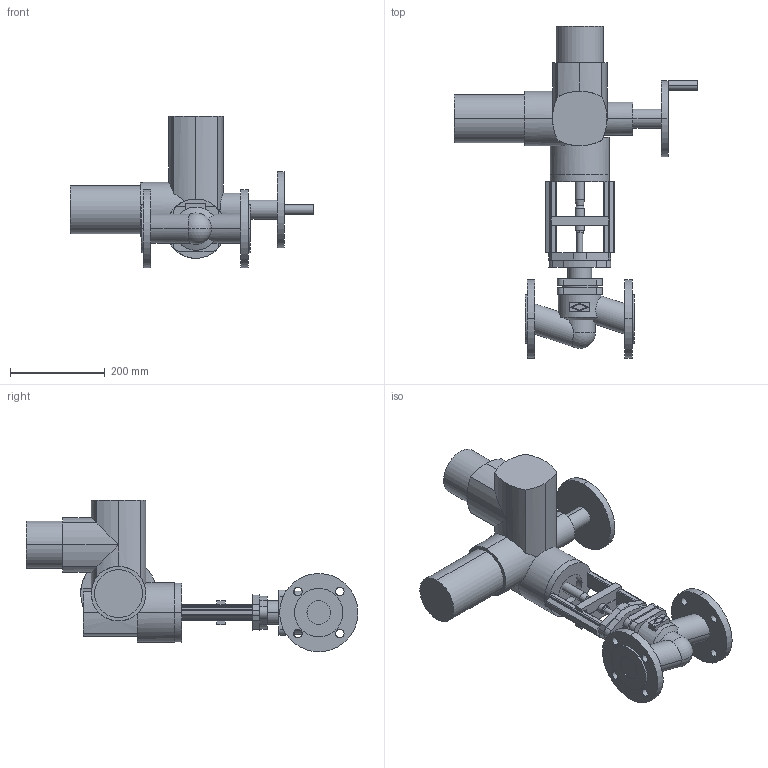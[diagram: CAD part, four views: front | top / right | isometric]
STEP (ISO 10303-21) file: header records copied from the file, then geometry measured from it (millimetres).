
FILE_DESCRIPTION(('OneSpaceDesigner STEP Export'),'2;1');
FILE_NAME('c000003096.stp','2007-01-09T11:38:53',(''),(''),'OneSpace Designer STEP processor for AP214 (Solid Model)','OneSpace Designer 14.00B 27-May-2006 (C) CoCreate Software GmbH','');
FILE_SCHEMA(('AUTOMOTIVE_DESIGN { 1 0 10303 214 1 1 1 1 }'));
Length unit declared in the file: millimetre
Products named in the file (3): 1; 2; 3
Bounding box: 514 x 699.5 x 319.5 mm (x, y, z)
Volume: 10576158 mm3; surface area: 667988 mm2
Topology: 3 solids, 3 shells, 265 faces, 676 edges, 431 vertices
Faces by surface type: cylinder 132, plane 125, cone 6, sphere 2
Entity records: 7921 total; most frequent: CARTESIAN_POINT 1839, ORIENTED_EDGE 1348, DIRECTION 1137, EDGE_CURVE 674, VERTEX_POINT 431, AXIS2_PLACEMENT_3D 382, VECTOR 373, LINE 373
